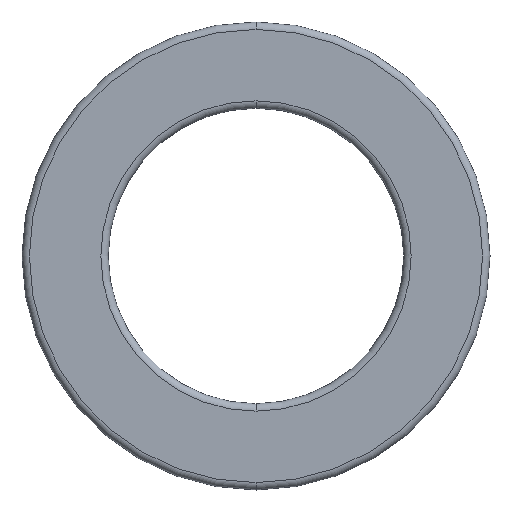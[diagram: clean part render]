
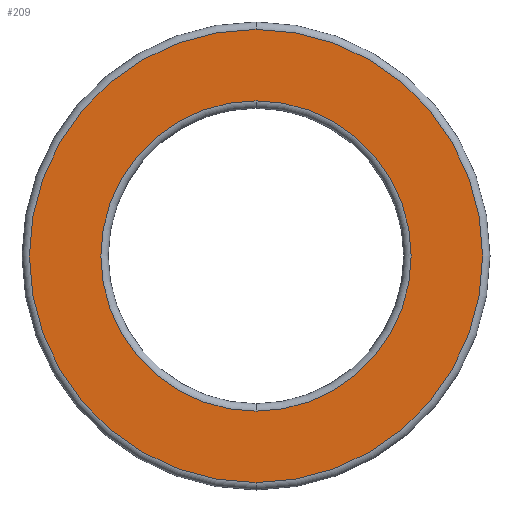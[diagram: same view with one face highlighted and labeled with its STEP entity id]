
A CAD part, front view. The second image highlights one B-rep face of the part: STEP entity #209.
In plain terms, the highlighted planar face has unit normal (0, -1, 0).
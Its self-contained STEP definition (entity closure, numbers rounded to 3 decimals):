
#2 = EDGE_LOOP ( 'NONE', ( #419, #91 ) ) ;
#4 = VERTEX_POINT ( 'NONE', #234 ) ;
#7 = CARTESIAN_POINT ( 'NONE',  ( 6., 0., 0. ) ) ;
#25 = DIRECTION ( 'NONE',  ( 0., 0., -1. ) ) ;
#30 = PLANE ( 'NONE',  #287 ) ;
#40 = DIRECTION ( 'NONE',  ( 0., 0., -1. ) ) ;
#53 = CARTESIAN_POINT ( 'NONE',  ( 0., 0., 0. ) ) ;
#62 = CARTESIAN_POINT ( 'NONE',  ( 0., 0., 0. ) ) ;
#76 = ORIENTED_EDGE ( 'NONE', *, *, #413, .T. ) ;
#91 = ORIENTED_EDGE ( 'NONE', *, *, #259, .T. ) ;
#105 = DIRECTION ( 'NONE',  ( 0., 0., -1. ) ) ;
#117 = DIRECTION ( 'NONE',  ( 0., 1., 0. ) ) ;
#121 = DIRECTION ( 'NONE',  ( 0., 0., -1. ) ) ;
#127 = CARTESIAN_POINT ( 'NONE',  ( 0., 0., 9.2 ) ) ;
#135 = VERTEX_POINT ( 'NONE', #127 ) ;
#154 = EDGE_LOOP ( 'NONE', ( #187, #76 ) ) ;
#161 = DIRECTION ( 'NONE',  ( 0., -1., 0. ) ) ;
#164 = DIRECTION ( 'NONE',  ( 0., 1., 0. ) ) ;
#186 = DIRECTION ( 'NONE',  ( 0., -1., 0. ) ) ;
#187 = ORIENTED_EDGE ( 'NONE', *, *, #363, .T. ) ;
#189 = CIRCLE ( 'NONE', #263, 9.2 ) ;
#209 = ADVANCED_FACE ( 'NONE', ( #447, #435 ), #30, .T. ) ;
#234 = CARTESIAN_POINT ( 'NONE',  ( 0., 0., 6.3 ) ) ;
#247 = VERTEX_POINT ( 'NONE', #277 ) ;
#259 = EDGE_CURVE ( 'NONE', #4, #247, #381, .T. ) ;
#263 = AXIS2_PLACEMENT_3D ( 'NONE', #62, #330, #105 ) ;
#271 = EDGE_CURVE ( 'NONE', #247, #4, #408, .T. ) ;
#277 = CARTESIAN_POINT ( 'NONE',  ( 0., 0., -6.3 ) ) ;
#278 = VERTEX_POINT ( 'NONE', #394 ) ;
#287 = AXIS2_PLACEMENT_3D ( 'NONE', #7, #161, #40 ) ;
#293 = AXIS2_PLACEMENT_3D ( 'NONE', #425, #164, #121 ) ;
#312 = AXIS2_PLACEMENT_3D ( 'NONE', #53, #186, #401 ) ;
#330 = DIRECTION ( 'NONE',  ( 0., -1., 0. ) ) ;
#338 = CIRCLE ( 'NONE', #312, 9.2 ) ;
#348 = AXIS2_PLACEMENT_3D ( 'NONE', #362, #117, #25 ) ;
#362 = CARTESIAN_POINT ( 'NONE',  ( 0., 0., 0. ) ) ;
#363 = EDGE_CURVE ( 'NONE', #278, #135, #338, .T. ) ;
#381 = CIRCLE ( 'NONE', #293, 6.3 ) ;
#394 = CARTESIAN_POINT ( 'NONE',  ( 0., 0., -9.2 ) ) ;
#401 = DIRECTION ( 'NONE',  ( 0., 0., -1. ) ) ;
#408 = CIRCLE ( 'NONE', #348, 6.3 ) ;
#413 = EDGE_CURVE ( 'NONE', #135, #278, #189, .T. ) ;
#419 = ORIENTED_EDGE ( 'NONE', *, *, #271, .T. ) ;
#425 = CARTESIAN_POINT ( 'NONE',  ( 0., 0., 0. ) ) ;
#435 = FACE_BOUND ( 'NONE', #2, .T. ) ;
#447 = FACE_OUTER_BOUND ( 'NONE', #154, .T. ) ;
